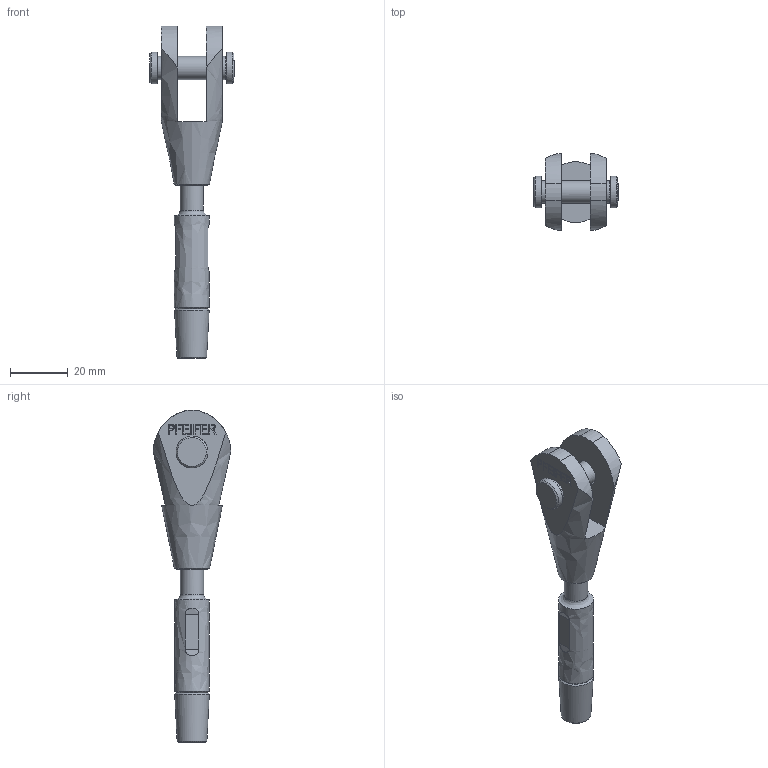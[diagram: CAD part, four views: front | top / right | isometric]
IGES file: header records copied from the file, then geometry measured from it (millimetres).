
Global section: file name: 520-008-GAK-ADA; native system: Autodesk Inventor 2016; preprocessor: unknown; author: Administrator; date: 20200703.130221; units: centimetre
Bounding box: 29.11 x 26.67 x 114.5 mm (x, y, z)
Volume: 17784.3 mm3; surface area: 8744.6 mm2
Topology: 2 solids, 3 shells, 197 faces, 521 edges, 350 vertices
Faces by surface type: bspline 197
